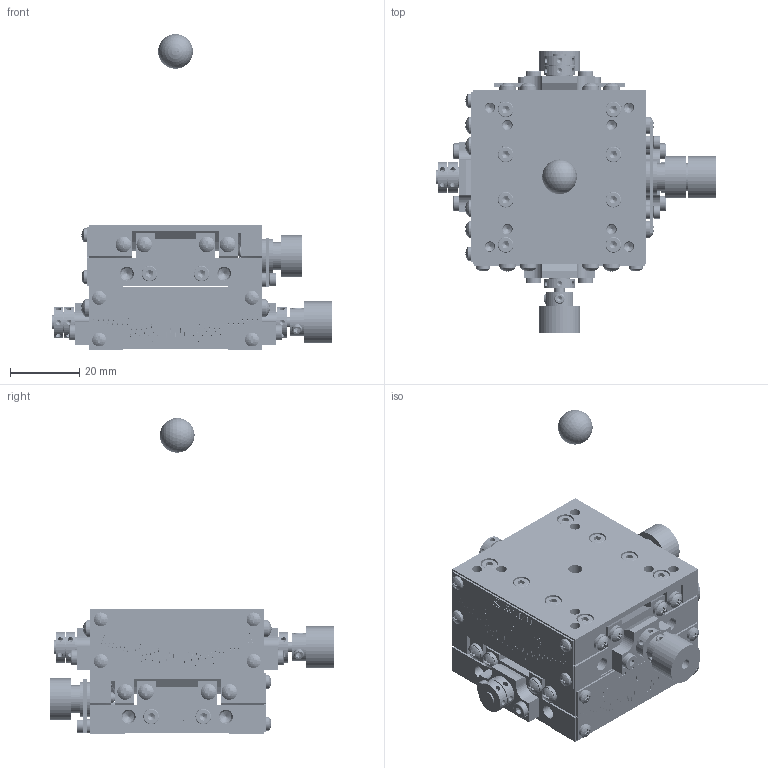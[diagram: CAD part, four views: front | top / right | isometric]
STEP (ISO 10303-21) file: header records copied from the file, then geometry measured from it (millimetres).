
FILE_DESCRIPTION (( 'STEP AP203' ), '1' );
FILE_NAME ('SH05B-RS.STEP', '2016-09-28T08:20:59', ( '' ), ( '' ), 'SwSTEP 2.0', 'SolidWorks 2011', '' );
FILE_SCHEMA (( 'CONFIG_CONTROL_DESIGN' ));
Products named in the file (5): SH05B-RS; lower-table-2; base-6; upper-table-2; rotation-center-6
Assembly tree (4 placements, depth 2):
  SH05B-RS
    lower-table-2
    rotation-center-6
    upper-table-2
    base-6
Bounding box: 80.5 x 81.5 x 91 mm (x, y, z)
Volume: 88464.7 mm3; surface area: 50696.7 mm2
Topology: 4 solids, 83 shells, 4148 faces, 10004 edges, 5986 vertices
Faces by surface type: plane 2060, cylinder 1289, cone 577, torus 160, sphere 50, bspline 12
Entity records: 126998 total; most frequent: CARTESIAN_POINT 29700, DIRECTION 21084, ORIENTED_EDGE 19406, EDGE_CURVE 9703, AXIS2_PLACEMENT_3D 7833, VERTEX_POINT 5983, VECTOR 5418, LINE 5418
